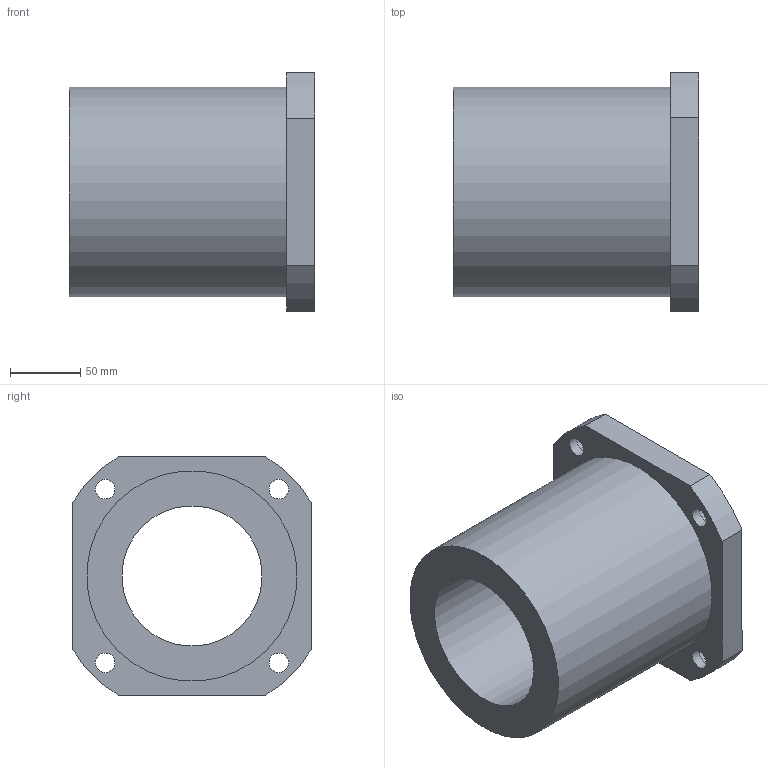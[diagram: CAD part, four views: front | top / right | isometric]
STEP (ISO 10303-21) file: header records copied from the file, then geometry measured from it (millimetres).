
FILE_DESCRIPTION(/* description */ (''),/* implementation_level */ '2;1');
FILE_NAME(/* name */ 'LMK100UU',/* time_stamp */ '2019-07-09T15:12:49+02:00',/* author */ ('VĂ©gh MĂˇtĂ©'),/* organization */ ('Bearing Kft'),/* preprocessor_version */ 'ST-DEVELOPER v16.7',/* originating_system */ 'DEX',/* authorisation */ $);
FILE_SCHEMA (('AUTOMOTIVE_DESIGN {1 0 10303 214 3 1 1}'));
Length unit declared in the file: millimetre
Products named in the file (1): LMK100UU
Bounding box: 175 x 170 x 170 mm (x, y, z)
Volume: 1886560.9 mm3; surface area: 182043.9 mm2
Topology: 1 solids, 1 shells, 329 faces, 822 edges, 548 vertices
Faces by surface type: plane 252, bspline 62, cylinder 15
Full cylindrical faces by diameter (mm): 14 x4, 20 x4, 100 x1, 150 x1
Entity records: 13633 total; most frequent: CARTESIAN_POINT 6151, ORIENTED_EDGE 1614, DIRECTION 1249, EDGE_CURVE 807, LINE 653, VECTOR 653, VERTEX_POINT 548, EDGE_LOOP 407
